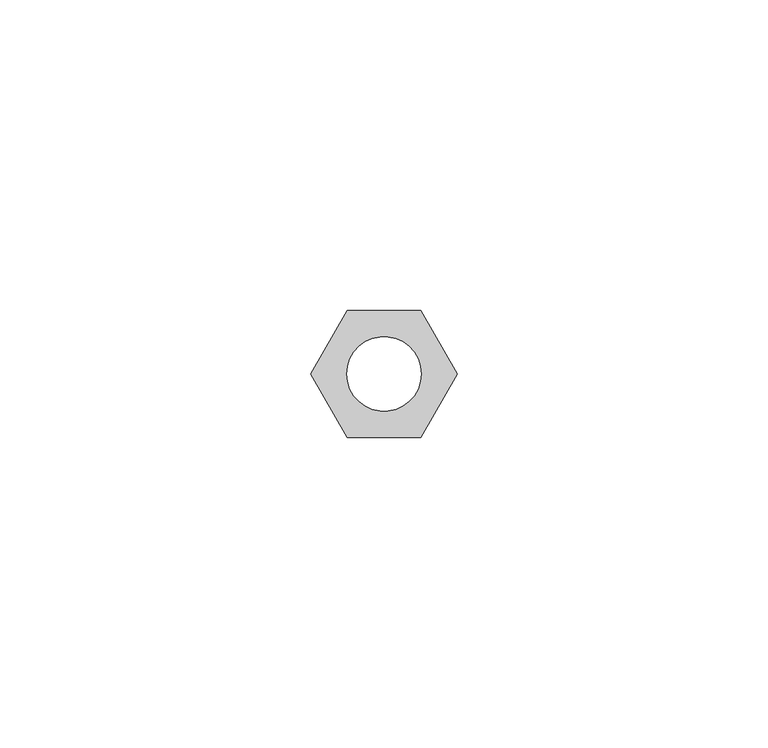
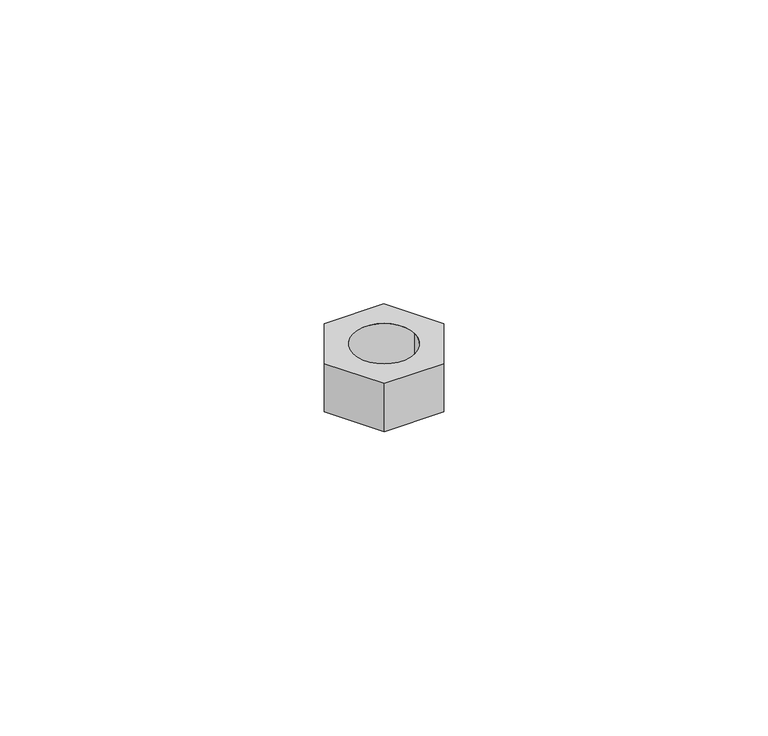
"""IFC4 building model written with IfcOpenShell, lengths in millimetres: fastener geometry, GEN-T-M12 : T-M12."""

from ifc_helpers import new_model, si_unit, point, origin, origin_with_axes, origin_2d, place, context, project, spatial, polyline, circle_curve, trimmed, segment, composite_curve, outline, extrude, source, transform, mapped, element, save


def fastener_8cac4275(model_context):
    return source(origin(), model_context, "Body", "SweptSolid", [
        extrude(outline(polyline([(-5.890503, 10.20264), (5.8904909, 10.20264), (11.7809879, 0.0), (5.8904909, -10.20264), (-5.890503, -10.20264), (-11.781, 0.0), (-5.890503, 10.20264)]), holes=[composite_curve([segment(trimmed(circle_curve(origin_2d(), 6.0), [point((-6.0, 0.0))], [point((6.0, 0.0))], True, "CARTESIAN"), True, "CONTINUOUS"), segment(trimmed(circle_curve(origin_2d(), 6.0), [point((6.0, 0.0))], [point((-6.0, 0.0))], True, "CARTESIAN"), True, "CONTINUOUS")], self_intersect=False)]), origin_with_axes(), (0.0, 0.0, 1.0), 10.0),
    ])


if __name__ == "__main__":
    model = new_model("IFC4")
    model_context = context("Model", 3, world=origin())
    ifc_project = project(units=[si_unit("LENGTHUNIT", "METRE", prefix="MILLI")], contexts=[model_context])
    site = spatial("IfcSite", under=ifc_project)
    building = spatial("IfcBuilding", under=site)
    placement = place(None, origin())
    fastener_shape = fastener_8cac4275(model_context)
    element("IfcFastener", 1, ObjectType="GEN-T-M12 : T-M12", at=placement, inside=building, context=model_context, shape_type="MappedRepresentation", body=[
        mapped(fastener_shape, transform((0.0, 0.0, 0.0), x_axis=(1.0, 0.0, 0.0), y_axis=(0.0, 1.0, 0.0), z_axis=(0.0, 0.0, 1.0))),
    ])
    save(model, "model.ifc")
